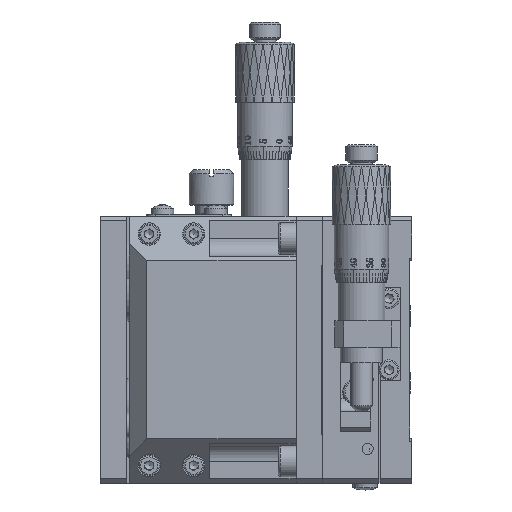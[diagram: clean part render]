
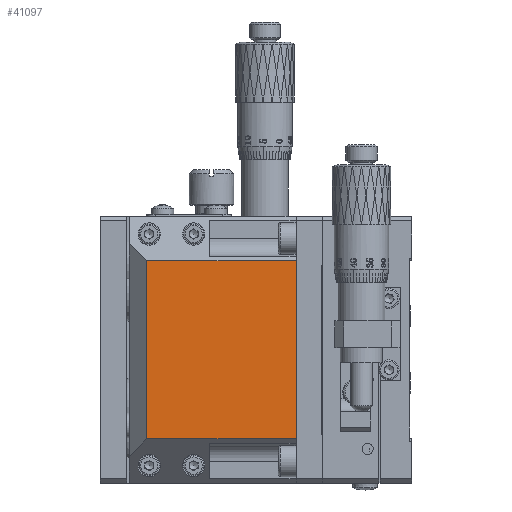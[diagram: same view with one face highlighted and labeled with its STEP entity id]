
A CAD part, left-side view. The second image highlights one B-rep face of the part: STEP entity #41097.
In plain terms, the highlighted planar face has unit normal (-1, 0, 0).
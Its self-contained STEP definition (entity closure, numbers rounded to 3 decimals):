
#2911 = LINE ( 'NONE', #51719, #28435 ) ;
#5593 = DIRECTION ( 'NONE',  ( 0., -1., 0. ) ) ;
#7423 = VERTEX_POINT ( 'NONE', #64374 ) ;
#8779 = CARTESIAN_POINT ( 'NONE',  ( 1.569, 133.384, 52.107 ) ) ;
#19061 = AXIS2_PLACEMENT_3D ( 'NONE', #8779, #42414, #5593 ) ;
#19421 = VERTEX_POINT ( 'NONE', #137839 ) ;
#20089 = LINE ( 'NONE', #156667, #100432 ) ;
#22871 = CARTESIAN_POINT ( 'NONE',  ( 1.569, 133.384, 72.107 ) ) ;
#24164 = EDGE_LOOP ( 'NONE', ( #26760, #120428, #154054, #154423 ) ) ;
#26760 = ORIENTED_EDGE ( 'NONE', *, *, #76594, .T. ) ;
#28435 = VECTOR ( 'NONE', #40502, 1000. ) ;
#30436 = FACE_OUTER_BOUND ( 'NONE', #24164, .T. ) ;
#34118 = DIRECTION ( 'NONE',  ( 0., 1., 0. ) ) ;
#40502 = DIRECTION ( 'NONE',  ( 0., -1., 0. ) ) ;
#41097 = ADVANCED_FACE ( 'NONE', ( #30436 ), #103945, .T. ) ;
#42414 = DIRECTION ( 'NONE',  ( -1., 0., 0. ) ) ;
#45696 = DIRECTION ( 'NONE',  ( 0., 0., 1. ) ) ;
#51719 = CARTESIAN_POINT ( 'NONE',  ( 1.569, 133.384, 32.107 ) ) ;
#52873 = VECTOR ( 'NONE', #53137, 1000. ) ;
#53137 = DIRECTION ( 'NONE',  ( 0., 0., -1. ) ) ;
#64374 = CARTESIAN_POINT ( 'NONE',  ( 1.569, 148.134, 32.107 ) ) ;
#65932 = EDGE_CURVE ( 'NONE', #7423, #141885, #2911, .T. ) ;
#74759 = LINE ( 'NONE', #76320, #52873 ) ;
#76320 = CARTESIAN_POINT ( 'NONE',  ( 1.569, 148.134, 52.107 ) ) ;
#76594 = EDGE_CURVE ( 'NONE', #141885, #19421, #20089, .T. ) ;
#91321 = CARTESIAN_POINT ( 'NONE',  ( 1.569, 114.634, 32.107 ) ) ;
#93745 = EDGE_CURVE ( 'NONE', #19421, #127127, #144294, .T. ) ;
#99467 = VECTOR ( 'NONE', #34118, 1000. ) ;
#100432 = VECTOR ( 'NONE', #45696, 1000. ) ;
#103945 = PLANE ( 'NONE',  #19061 ) ;
#120428 = ORIENTED_EDGE ( 'NONE', *, *, #93745, .T. ) ;
#121711 = CARTESIAN_POINT ( 'NONE',  ( 1.569, 148.134, 72.107 ) ) ;
#126642 = EDGE_CURVE ( 'NONE', #127127, #7423, #74759, .T. ) ;
#127127 = VERTEX_POINT ( 'NONE', #121711 ) ;
#137839 = CARTESIAN_POINT ( 'NONE',  ( 1.569, 114.634, 72.107 ) ) ;
#141885 = VERTEX_POINT ( 'NONE', #91321 ) ;
#144294 = LINE ( 'NONE', #22871, #99467 ) ;
#154054 = ORIENTED_EDGE ( 'NONE', *, *, #126642, .T. ) ;
#154423 = ORIENTED_EDGE ( 'NONE', *, *, #65932, .T. ) ;
#156667 = CARTESIAN_POINT ( 'NONE',  ( 1.569, 114.634, 22.107 ) ) ;
